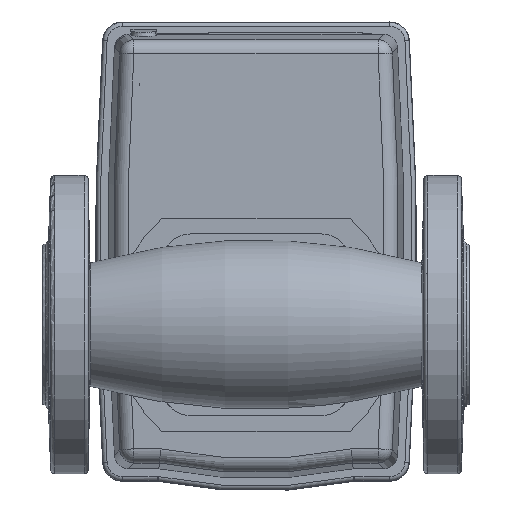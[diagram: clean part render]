
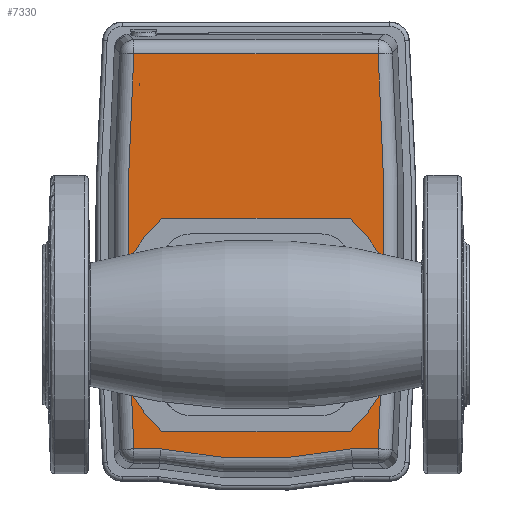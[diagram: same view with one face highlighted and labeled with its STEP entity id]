
A CAD part, top view. The second image highlights one B-rep face of the part: STEP entity #7330.
In plain terms, the highlighted planar face has unit normal (0, 0, 1).
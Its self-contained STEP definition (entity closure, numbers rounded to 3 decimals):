
#218=PLANE('',#7806);
#490=LINE('',#10560,#817);
#491=LINE('',#10564,#818);
#492=LINE('',#10568,#819);
#493=LINE('',#10572,#820);
#817=VECTOR('',#8895,1000.);
#818=VECTOR('',#8898,1000.);
#819=VECTOR('',#8901,1000.);
#820=VECTOR('',#8904,1000.);
#1697=ORIENTED_EDGE('',*,*,#2772,.T.);
#1698=ORIENTED_EDGE('',*,*,#2889,.F.);
#1699=ORIENTED_EDGE('',*,*,#2890,.T.);
#1700=ORIENTED_EDGE('',*,*,#2891,.F.);
#1701=ORIENTED_EDGE('',*,*,#2892,.T.);
#1702=ORIENTED_EDGE('',*,*,#2893,.F.);
#1703=ORIENTED_EDGE('',*,*,#2894,.T.);
#1704=ORIENTED_EDGE('',*,*,#2895,.T.);
#1705=ORIENTED_EDGE('',*,*,#2896,.T.);
#2772=EDGE_CURVE('',#3451,#3451,#3845,.T.);
#2889=EDGE_CURVE('',#3521,#3522,#3882,.T.);
#2890=EDGE_CURVE('',#3521,#3523,#490,.T.);
#2891=EDGE_CURVE('',#3524,#3523,#3883,.T.);
#2892=EDGE_CURVE('',#3524,#3525,#491,.T.);
#2893=EDGE_CURVE('',#3526,#3525,#3884,.T.);
#2894=EDGE_CURVE('',#3526,#3522,#492,.T.);
#2895=EDGE_CURVE('',#3527,#3528,#3885,.T.);
#2896=EDGE_CURVE('',#3528,#3527,#493,.T.);
#3451=VERTEX_POINT('',#10314);
#3521=VERTEX_POINT('',#10558);
#3522=VERTEX_POINT('',#10559);
#3523=VERTEX_POINT('',#10561);
#3524=VERTEX_POINT('',#10563);
#3525=VERTEX_POINT('',#10565);
#3526=VERTEX_POINT('',#10567);
#3527=VERTEX_POINT('',#10570);
#3528=VERTEX_POINT('',#10571);
#3845=CIRCLE('',#7713,25.358);
#3882=CIRCLE('',#7807,1090.687);
#3883=CIRCLE('',#7808,163.687);
#3884=CIRCLE('',#7809,1090.687);
#3885=CIRCLE('',#7810,8.5);
#4190=EDGE_LOOP('',(#1697));
#4191=EDGE_LOOP('',(#1698,#1699,#1700,#1701,#1702,#1703));
#4192=EDGE_LOOP('',(#1704,#1705));
#4612=FACE_BOUND('',#4190,.T.);
#4613=FACE_BOUND('',#4191,.T.);
#4614=FACE_BOUND('',#4192,.T.);
#7330=ADVANCED_FACE('',(#4612,#4613,#4614),#218,.F.);
#7713=AXIS2_PLACEMENT_3D('',#10313,#8633,#8634);
#7806=AXIS2_PLACEMENT_3D('',#10556,#8891,#8892);
#7807=AXIS2_PLACEMENT_3D('',#10557,#8893,#8894);
#7808=AXIS2_PLACEMENT_3D('',#10562,#8896,#8897);
#7809=AXIS2_PLACEMENT_3D('',#10566,#8899,#8900);
#7810=AXIS2_PLACEMENT_3D('',#10569,#8902,#8903);
#8633=DIRECTION('',(0.,0.,-1.));
#8634=DIRECTION('',(0.,1.,0.));
#8891=DIRECTION('',(0.,0.,-1.));
#8892=DIRECTION('',(0.,1.,0.));
#8893=DIRECTION('',(0.,0.,-1.));
#8894=DIRECTION('',(0.,1.,0.));
#8895=DIRECTION('',(1.,0.,0.));
#8896=DIRECTION('',(0.,0.,-1.));
#8897=DIRECTION('',(0.,1.,0.));
#8898=DIRECTION('',(1.,0.,0.));
#8899=DIRECTION('',(0.,0.,-1.));
#8900=DIRECTION('',(0.,1.,0.));
#8901=DIRECTION('',(-1.,0.,0.));
#8902=DIRECTION('',(0.,0.,-1.));
#8903=DIRECTION('',(-1.,0.,0.));
#8904=DIRECTION('',(0.,-1.,0.));
#10313=CARTESIAN_POINT('',(-107.719,1.009,-180.17));
#10314=CARTESIAN_POINT('',(-107.719,26.366,-180.17));
#10556=CARTESIAN_POINT('',(937.794,27.255,-180.17));
#10557=CARTESIAN_POINT('',(937.794,27.255,-180.17));
#10558=CARTESIAN_POINT('',(-150.68,-42.186,-180.17));
#10559=CARTESIAN_POINT('',(-150.68,96.696,-180.17));
#10560=CARTESIAN_POINT('',(937.794,-42.186,-180.17));
#10561=CARTESIAN_POINT('',(-141.173,-42.186,-180.17));
#10562=CARTESIAN_POINT('',(-107.719,118.046,-180.17));
#10563=CARTESIAN_POINT('',(-74.265,-42.186,-180.17));
#10564=CARTESIAN_POINT('',(937.794,-42.186,-180.17));
#10565=CARTESIAN_POINT('',(-64.758,-42.186,-180.17));
#10566=CARTESIAN_POINT('',(-1153.232,27.255,-180.17));
#10567=CARTESIAN_POINT('',(-64.758,96.696,-180.17));
#10568=CARTESIAN_POINT('',(937.794,96.696,-180.17));
#10569=CARTESIAN_POINT('',(-140.219,86.009,-180.17));
#10570=CARTESIAN_POINT('',(-148.709,85.603,-180.17));
#10571=CARTESIAN_POINT('',(-148.709,86.414,-180.17));
#10572=CARTESIAN_POINT('',(-148.709,95.66,-180.17));
